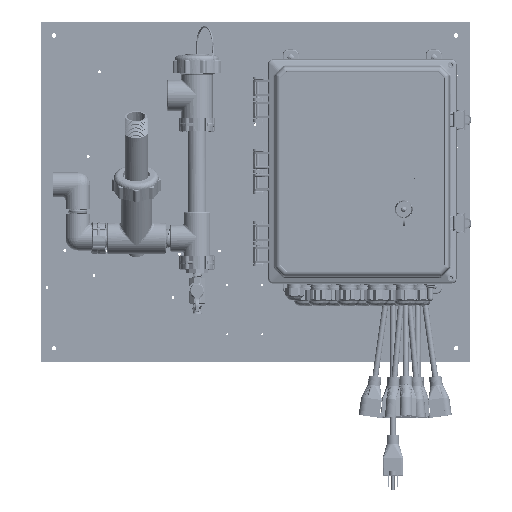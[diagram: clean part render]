
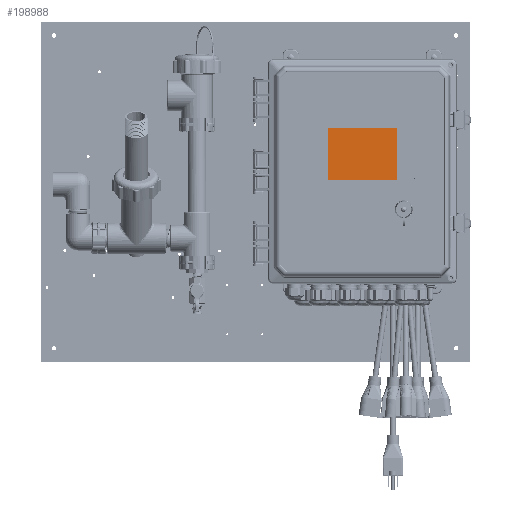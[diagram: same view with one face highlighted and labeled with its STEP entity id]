
A CAD part, top view. The second image highlights one B-rep face of the part: STEP entity #198988.
In plain terms, the highlighted planar face has unit normal (0, 0, 1) as drawn and (0, 0.819, -0.574) by its records, which use the part's own axes.
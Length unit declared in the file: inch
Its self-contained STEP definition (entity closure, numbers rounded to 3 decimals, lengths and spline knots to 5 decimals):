
#9699 = DIRECTION ( 'NONE',  ( 0., -0.574, -0.819 ) ) ;
#23789 = EDGE_LOOP ( 'NONE', ( #634571, #54438, #427010, #202076 ) ) ;
#54438 = ORIENTED_EDGE ( 'NONE', *, *, #602631, .T. ) ;
#139305 = LINE ( 'NONE', #269566, #475373 ) ;
#141713 = CARTESIAN_POINT ( 'NONE',  ( -0.83809, 5.06542, 1.8349 ) ) ;
#151749 = VERTEX_POINT ( 'NONE', #141713 ) ;
#159839 = LINE ( 'NONE', #404095, #263826 ) ;
#166880 = EDGE_CURVE ( 'NONE', #151749, #432218, #159839, .T. ) ;
#173656 = VECTOR ( 'NONE', #454261, 39.37008 ) ;
#191800 = CARTESIAN_POINT ( 'NONE',  ( -3.75195, 5.06542, 1.8349 ) ) ;
#198988 = ADVANCED_FACE ( 'NONE', ( #362150 ), #629907, .T. ) ;
#202076 = ORIENTED_EDGE ( 'NONE', *, *, #166880, .T. ) ;
#263826 = VECTOR ( 'NONE', #346127, 39.37008 ) ;
#264456 = CARTESIAN_POINT ( 'NONE',  ( -0.83809, 5.06542, 1.8349 ) ) ;
#269566 = CARTESIAN_POINT ( 'NONE',  ( -3.75195, 7.27913, 4.9955 ) ) ;
#287834 = CARTESIAN_POINT ( 'NONE',  ( -0.83809, 7.27913, 4.9955 ) ) ;
#346127 = DIRECTION ( 'NONE',  ( -1., 0., 0. ) ) ;
#347035 = CARTESIAN_POINT ( 'NONE',  ( -3.75195, 5.06542, 1.8349 ) ) ;
#362150 = FACE_OUTER_BOUND ( 'NONE', #23789, .T. ) ;
#374522 = DIRECTION ( 'NONE',  ( 1., 0., 0. ) ) ;
#404095 = CARTESIAN_POINT ( 'NONE',  ( -3.75195, 5.06542, 1.8349 ) ) ;
#426671 = DIRECTION ( 'NONE',  ( 0., 0.819, -0.574 ) ) ;
#427010 = ORIENTED_EDGE ( 'NONE', *, *, #557371, .T. ) ;
#432218 = VERTEX_POINT ( 'NONE', #191800 ) ;
#454261 = DIRECTION ( 'NONE',  ( 0., 0.574, 0.819 ) ) ;
#457427 = AXIS2_PLACEMENT_3D ( 'NONE', #574218, #426671, #596542 ) ;
#475373 = VECTOR ( 'NONE', #374522, 39.37008 ) ;
#482532 = LINE ( 'NONE', #264456, #618317 ) ;
#557371 = EDGE_CURVE ( 'NONE', #606896, #151749, #482532, .T. ) ;
#574218 = CARTESIAN_POINT ( 'NONE',  ( 0., 2.53611, -1.77631 ) ) ;
#576451 = CARTESIAN_POINT ( 'NONE',  ( -3.75195, 7.27913, 4.9955 ) ) ;
#581563 = LINE ( 'NONE', #347035, #173656 ) ;
#596542 = DIRECTION ( 'NONE',  ( 0., 0.574, 0.819 ) ) ;
#602631 = EDGE_CURVE ( 'NONE', #619243, #606896, #139305, .T. ) ;
#606896 = VERTEX_POINT ( 'NONE', #287834 ) ;
#618317 = VECTOR ( 'NONE', #9699, 39.37008 ) ;
#619243 = VERTEX_POINT ( 'NONE', #576451 ) ;
#626329 = EDGE_CURVE ( 'NONE', #432218, #619243, #581563, .T. ) ;
#629907 = PLANE ( 'NONE',  #457427 ) ;
#634571 = ORIENTED_EDGE ( 'NONE', *, *, #626329, .T. ) ;
